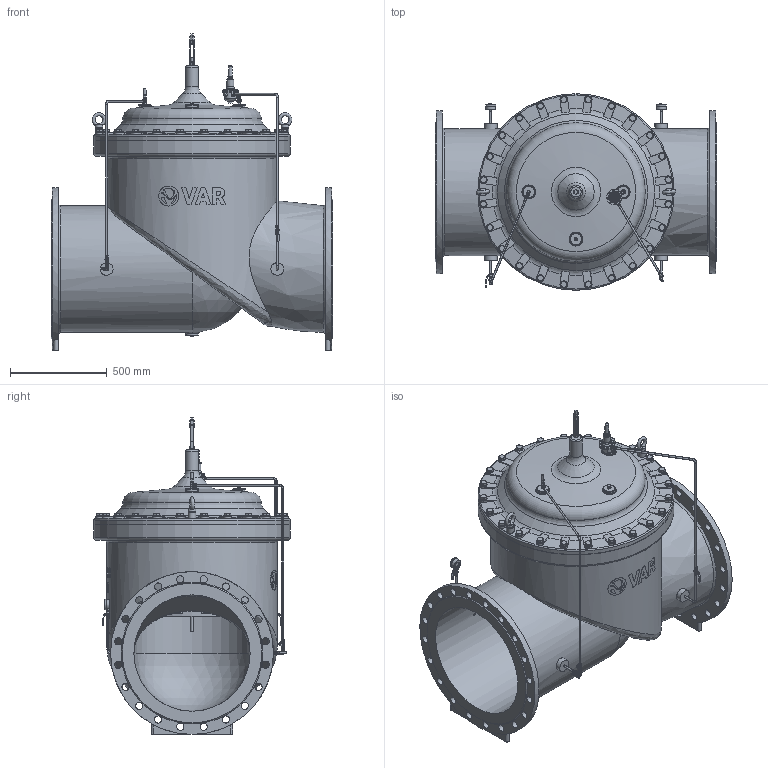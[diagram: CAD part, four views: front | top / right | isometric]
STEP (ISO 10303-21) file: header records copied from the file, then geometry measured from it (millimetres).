
FILE_DESCRIPTION(('STEP AP242'), '1');
FILE_NAME('PICO C200', '', ('UNSPECIFIED'), ('UNSPECIFIED'), 'C3D Converter', 'C3D Toolkit', '');
FILE_SCHEMA(('AP242_MANAGED_MODEL_BASED_3D_ENGINEERING_MIM_LF { 1 0 10303 442 1 1 4 }'));
Length unit declared in the file: millimetre
Products named in the file (26): М; ВР.752218.002
Assembly tree (93 placements, depth 3):
  (unnamed)
    (unnamed)
    (unnamed)
    (unnamed)
    (unnamed)
    (unnamed)
    (unnamed)
    (unnamed)
    М  x2
    (unnamed)
    (unnamed)  x4
    ВР.752218.002  x2
    (unnamed)  x6
    (unnamed)
    (unnamed)  x4
    (unnamed)
    (unnamed)
      (unnamed)
      (unnamed)
      (unnamed)  x8
      (unnamed)
    (unnamed)
    (unnamed)  x2
    (unnamed)  x2
    (unnamed)  x24
    (unnamed)  x24
Bounding box: 1450 x 1014 x 1635 mm (x, y, z)
Volume: 241288179.3 mm3; surface area: 17826109.6 mm2
Topology: 99 solids, 101 shells, 3553 faces, 8688 edges, 5610 vertices
Faces by surface type: plane 1947, cylinder 753, cone 468, extrusion 175, torus 111, bspline 88, sphere 11
Full cylindrical faces by diameter (mm): 0.518 x2, 1.2 x1, 2.5 x2, 3 x8, 4 x25, 4.2 x4, 4.5 x4, 5 x2, 6 x8, 7 x8, 8 x5, 8.7 x1, 9 x16, 9.3 x6, 9.5 x2, 10 x4, 10.2 x4, 10.8 x2, 11 x18, 11.16 x4, 11.179 x6, 11.22 x4, 11.4 x2, 11.577 x2, 12 x10, 12.5 x3, 12.573 x15, 13.157 x2, 13.8 x4, 14.4 x5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
Entity records: 127174 total; most frequent: CARTESIAN_POINT 73266, ORIENTED_EDGE 8514, DIRECTION 7762, EDGE_CURVE 4257, VERTEX_POINT 3082, AXIS2_PLACEMENT_3D 2894, EDGE_LOOP 2737, FACE_BOUND 2087
